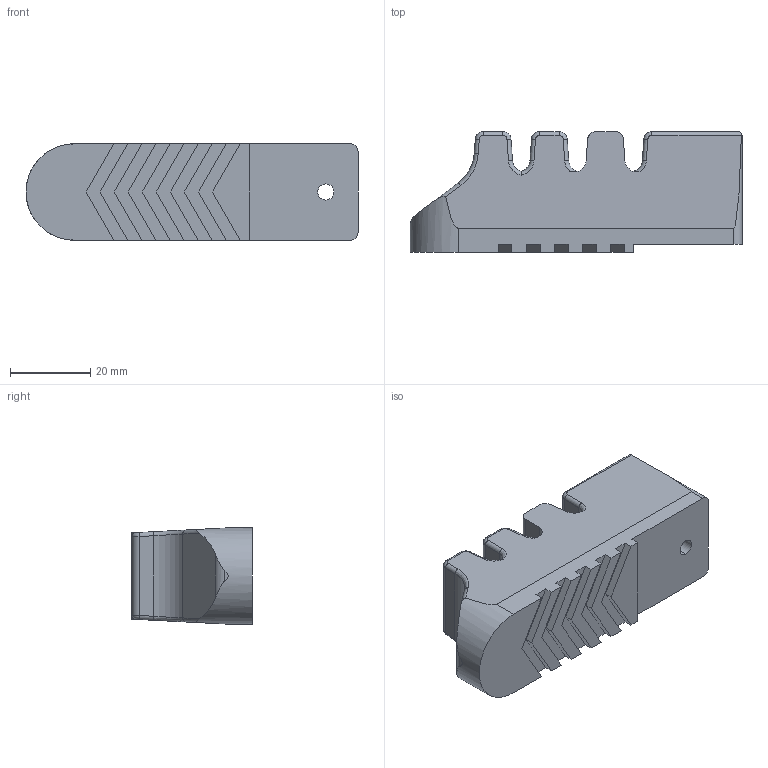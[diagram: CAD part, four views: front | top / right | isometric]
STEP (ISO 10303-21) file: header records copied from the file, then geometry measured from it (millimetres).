
FILE_DESCRIPTION (( 'STEP AP214' ), '1' );
FILE_NAME ('A4.STEP', '2019-12-04T07:19:10', ( '微软用户' ), ( '微软中国' ), 'SwSTEP 2.0', 'SolidWorks 2016', '' );
FILE_SCHEMA (( 'AUTOMOTIVE_DESIGN' ));
Length unit declared in the file: millimetre
Products named in the file (1): A4
Bounding box: 82.7 x 30 x 24 mm (x, y, z)
Volume: 45351.9 mm3; surface area: 10525.3 mm2
Topology: 1 solids, 1 shells, 110 faces, 290 edges, 182 vertices
Faces by surface type: plane 51, cylinder 39, bspline 20
Entity records: 5893 total; most frequent: CARTESIAN_POINT 2172, ORIENTED_EDGE 580, DIRECTION 436, EDGE_CURVE 290, VERTEX_POINT 182, VECTOR 180, LINE 180, AXIS2_PLACEMENT_3D 128
